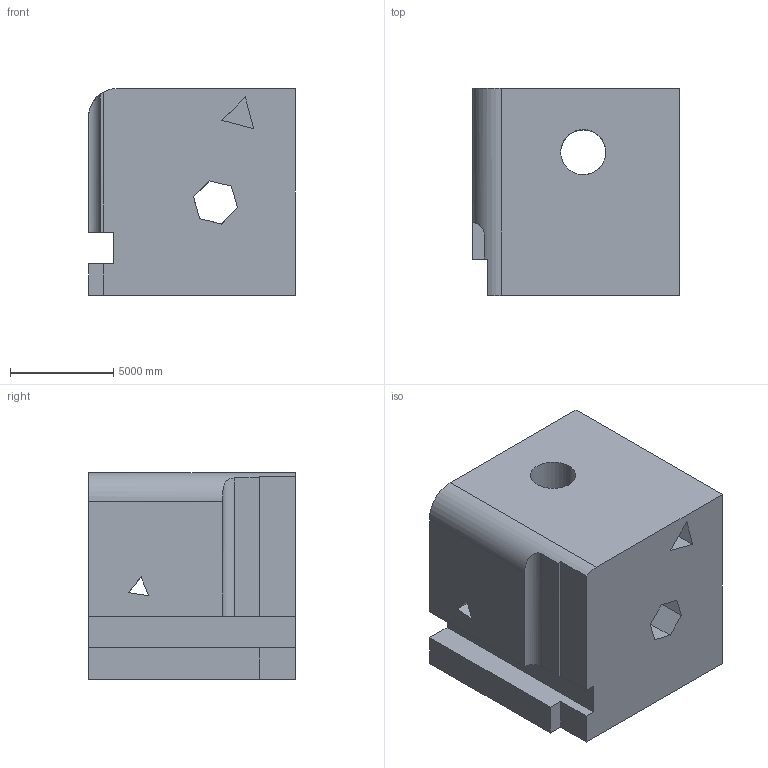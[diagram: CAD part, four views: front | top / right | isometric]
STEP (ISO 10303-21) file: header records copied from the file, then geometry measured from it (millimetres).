
FILE_DESCRIPTION (( 'STEP AP203' ), '1' );
FILE_NAME ('97.STEP', '2022-08-30T14:35:53', ( 'user' ), ( '' ), 'SwSTEP 2.0', 'SolidWorks 2021', '' );
FILE_SCHEMA (( 'CONFIG_CONTROL_DESIGN' ));
Length unit declared in the file: centimetre
Products named in the file (1): 97
Bounding box: 10000 x 10000 x 10000 mm (x, y, z)
Volume: 871748394165.3 mm3; surface area: 789860964.6 mm2
Topology: 1 solids, 1 shells, 52 faces, 168 edges, 112 vertices
Faces by surface type: plane 46, cylinder 6
Entity records: 2016 total; most frequent: CARTESIAN_POINT 490, ORIENTED_EDGE 336, DIRECTION 265, EDGE_CURVE 168, VECTOR 127, LINE 127, VERTEX_POINT 112, AXIS2_PLACEMENT_3D 69
